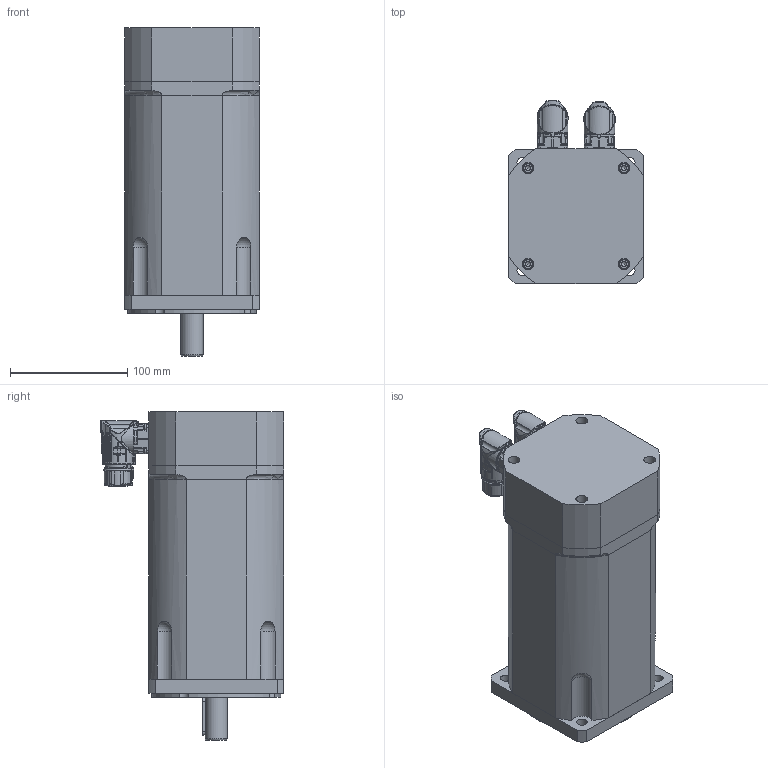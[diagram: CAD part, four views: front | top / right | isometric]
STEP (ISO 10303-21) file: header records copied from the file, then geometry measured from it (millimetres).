
FILE_DESCRIPTION(/* description */ (''),/* implementation_level */ '2;1');
FILE_NAME(/* name */ 'C:\Users\Public\Documents\Autodesk\Inventor LT 2014\Workspace\TG4\DSM5_4x_xxx7\DSM5_43_xxx7.stp',/* time_stamp */ '2016-03-14T13:47:49+01:00',/* author */ ('motion'),/* organization */ (''),/* preprocessor_version */ 'ST-DEVELOPER v15.2',/* originating_system */ 'Autodesk Inventor LT ',/* authorisation */ '');
FILE_SCHEMA (('AUTOMOTIVE_DESIGN { 1 0 10303 214 3 1 1 }'));
Products named in the file (1): DSM5_43_xxx7
Bounding box: 115 x 156.43 x 280.5 mm (x, y, z)
Volume: 2944118.3 mm3; surface area: 235535.4 mm2
Topology: 15 solids, 17 shells, 3085 faces, 7791 edges, 4689 vertices
Faces by surface type: cylinder 883, bspline 854, plane 596, torus 382, cone 250, sphere 120
Full cylindrical faces by diameter (mm): 1.2 x17, 2 x6, 2.15 x6, 2.224 x8, 2.5 x8, 2.7 x8, 3 x1, 4.5 x2, 4.917 x1, 5 x8, 5.5 x3, 5.9 x2, 6 x4, 8.5 x4, 9 x4, 10 x8, 11 x4, 15.2 x1, 19 x1, 19.1 x1, 21.6 x1, 22.5 x1, 23 x2, 24.4 x1, 25 x1, 42 x1, 52 x2, 90 x1
Entity records: 190329 total; most frequent: CARTESIAN_POINT 120176, ORIENTED_EDGE 14668, DIRECTION 12871, EDGE_CURVE 7334, AXIS2_PLACEMENT_3D 5525, VERTEX_POINT 4596, EDGE_LOOP 3476, ADVANCED_FACE 3081
